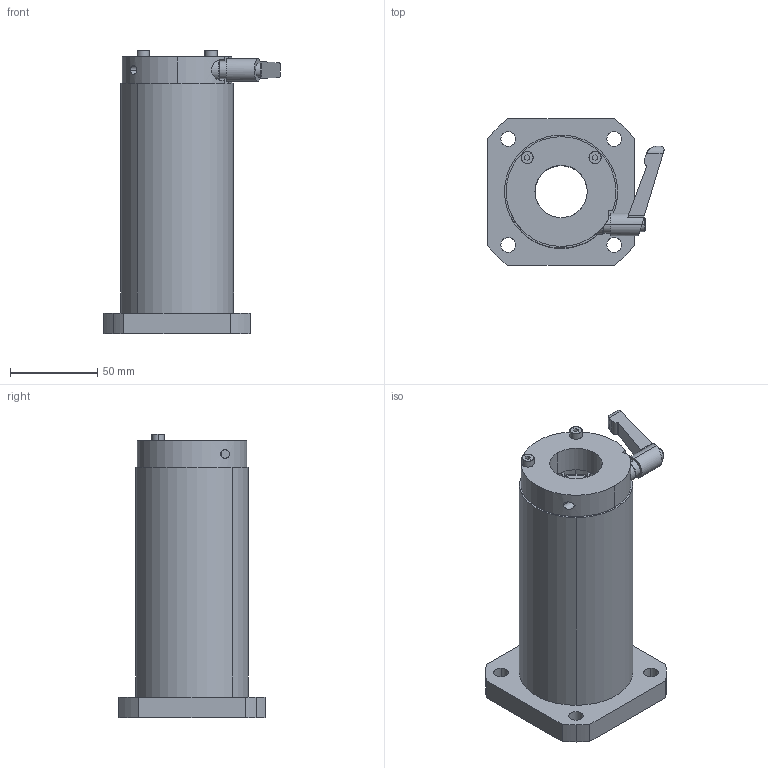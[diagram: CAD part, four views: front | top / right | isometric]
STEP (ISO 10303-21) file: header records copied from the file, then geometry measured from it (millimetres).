
FILE_DESCRIPTION (( 'STEP AP214' ), '1' );
FILE_NAME ('LFWK30-C.STEP', '2023-06-27T02:00:20', ( '' ), ( '' ), 'SwSTEP 2.0', 'SolidWorks 2019', '' );
FILE_SCHEMA (( 'AUTOMOTIVE_DESIGN' ));
Length unit declared in the file: millimetre
Products named in the file (3): “ÁSCK3015CO-S4.5; LFWK30; LFWK30-C
Assembly tree (2 placements, depth 2):
  LFWK30-C
    LFWK30
    “ÁSCK3015CO-S4.5
Bounding box: 101.1 x 84 x 163 mm (x, y, z)
Volume: 442327.2 mm3; surface area: 79344.8 mm2
Topology: 3 solids, 8 shells, 199 faces, 513 edges, 324 vertices
Faces by surface type: cylinder 80, plane 61, bspline 39, cone 11, torus 8
Entity records: 8882 total; most frequent: CARTESIAN_POINT 1904, DIRECTION 1076, ORIENTED_EDGE 1026, EDGE_CURVE 513, AXIS2_PLACEMENT_3D 442, VERTEX_POINT 324, CIRCLE 277, EDGE_LOOP 239
